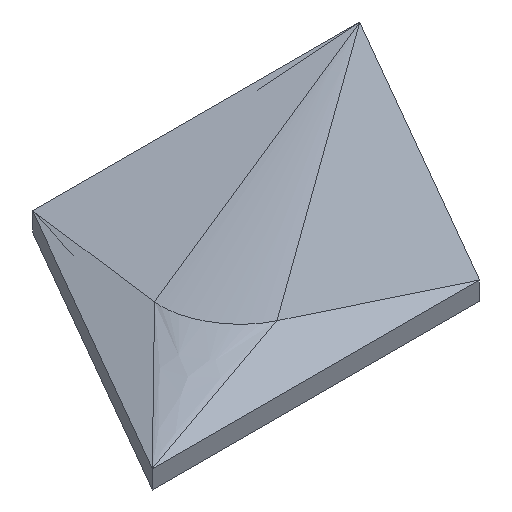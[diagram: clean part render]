
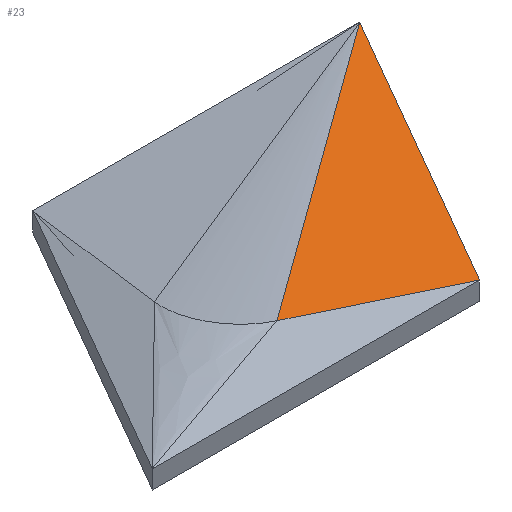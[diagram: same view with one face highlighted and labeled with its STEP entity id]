
A CAD part, isometric view. The second image highlights one B-rep face of the part: STEP entity #23.
In plain terms, the highlighted free-form (B-spline) face has degree [3, 3] with [6, 6] control points.
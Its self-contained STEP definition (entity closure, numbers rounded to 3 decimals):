
#23=ADVANCED_FACE('',(#34),#138,.T.);
#34=FACE_OUTER_BOUND('',#45,.T.);
#45=EDGE_LOOP('',(#77,#78,#79));
#77=ORIENTED_EDGE('',*,*,#103,.F.);
#78=ORIENTED_EDGE('',*,*,#102,.T.);
#79=ORIENTED_EDGE('',*,*,#89,.F.);
#89=EDGE_CURVE('',#129,#128,#111,.T.);
#102=EDGE_CURVE('',#132,#128,#121,.T.);
#103=EDGE_CURVE('',#132,#129,#122,.T.);
#111=B_SPLINE_CURVE_WITH_KNOTS('',1,(#367,#368),.UNSPECIFIED.,.F.,.F.,(2,
2),(500.799,750.799),.UNSPECIFIED.);
#121=B_SPLINE_CURVE_WITH_KNOTS('',2,(#400,#401,#402),.UNSPECIFIED.,.F.,
 .F.,(3,3),(0.,250.),.UNSPECIFIED.);
#122=B_SPLINE_CURVE_WITH_KNOTS('',3,(#403,#404,#405,#406,#407,#408),
 .UNSPECIFIED.,.F.,.F.,(4,1,1,4),(-275.764,-183.842,-91.921,
0.),.UNSPECIFIED.);
#128=VERTEX_POINT('',#355);
#129=VERTEX_POINT('',#356);
#132=VERTEX_POINT('',#359);
#138=B_SPLINE_SURFACE_WITH_KNOTS('',3,3,((#213,#214,#215,#216,#217,#218),
(#219,#220,#221,#222,#223,#224),(#225,#226,#227,#228,#229,#230),(#231,#232,
#233,#234,#235,#236),(#237,#238,#239,#240,#241,#242),(#243,#244,#245,#246,
#247,#248)),.UNSPECIFIED.,.F.,.F.,.F.,(4,1,1,4),(4,1,1,4),(0.,10.37,
20.741,31.111),(0.,91.921,183.842,
275.764),.UNSPECIFIED.);
#213=CARTESIAN_POINT('',(375.,216.506,14.));
#214=CARTESIAN_POINT('',(361.111,192.45,14.));
#215=CARTESIAN_POINT('',(333.333,144.338,14.));
#216=CARTESIAN_POINT('',(291.667,72.169,14.));
#217=CARTESIAN_POINT('',(263.889,24.056,14.));
#218=CARTESIAN_POINT('',(250.,0.,14.));
#219=CARTESIAN_POINT('',(375.,216.506,14.));
#220=CARTESIAN_POINT('',(359.653,192.902,14.17));
#221=CARTESIAN_POINT('',(328.958,145.692,14.511));
#222=CARTESIAN_POINT('',(282.915,74.879,15.023));
#223=CARTESIAN_POINT('',(252.22,27.669,15.363));
#224=CARTESIAN_POINT('',(236.873,4.065,15.534));
#225=CARTESIAN_POINT('',(375.,216.506,14.));
#226=CARTESIAN_POINT('',(356.735,193.805,14.511));
#227=CARTESIAN_POINT('',(320.206,148.402,15.534));
#228=CARTESIAN_POINT('',(265.413,80.298,17.068));
#229=CARTESIAN_POINT('',(228.884,34.895,18.09));
#230=CARTESIAN_POINT('',(210.619,12.194,18.601));
#231=CARTESIAN_POINT('',(375.,216.506,14.));
#232=CARTESIAN_POINT('',(352.36,195.16,15.023));
#233=CARTESIAN_POINT('',(307.079,152.467,17.068));
#234=CARTESIAN_POINT('',(239.159,88.427,20.135));
#235=CARTESIAN_POINT('',(193.878,45.734,22.18));
#236=CARTESIAN_POINT('',(171.238,24.387,23.203));
#237=CARTESIAN_POINT('',(375.,216.506,14.));
#238=CARTESIAN_POINT('',(349.443,196.063,15.363));
#239=CARTESIAN_POINT('',(298.328,155.176,18.09));
#240=CARTESIAN_POINT('',(221.656,93.847,22.18));
#241=CARTESIAN_POINT('',(170.542,52.96,24.907));
#242=CARTESIAN_POINT('',(144.984,32.517,26.27));
#243=CARTESIAN_POINT('',(375.,216.506,14.));
#244=CARTESIAN_POINT('',(347.984,196.515,15.534));
#245=CARTESIAN_POINT('',(293.952,156.531,18.601));
#246=CARTESIAN_POINT('',(212.905,96.556,23.203));
#247=CARTESIAN_POINT('',(158.873,56.573,26.27));
#248=CARTESIAN_POINT('',(131.857,36.581,27.804));
#355=CARTESIAN_POINT('',(250.,0.,14.));
#356=CARTESIAN_POINT('',(375.,216.506,14.));
#359=CARTESIAN_POINT('',(131.857,36.581,27.804));
#367=CARTESIAN_POINT('',(375.,216.506,14.));
#368=CARTESIAN_POINT('',(250.,0.,14.));
#400=CARTESIAN_POINT('',(131.857,36.581,27.804));
#401=CARTESIAN_POINT('',(190.929,18.291,20.902));
#402=CARTESIAN_POINT('',(250.,0.,14.));
#403=CARTESIAN_POINT('',(131.857,36.581,27.804));
#404=CARTESIAN_POINT('',(158.873,56.573,26.27));
#405=CARTESIAN_POINT('',(212.905,96.556,23.203));
#406=CARTESIAN_POINT('',(293.952,156.531,18.601));
#407=CARTESIAN_POINT('',(347.984,196.515,15.534));
#408=CARTESIAN_POINT('',(375.,216.506,14.));
